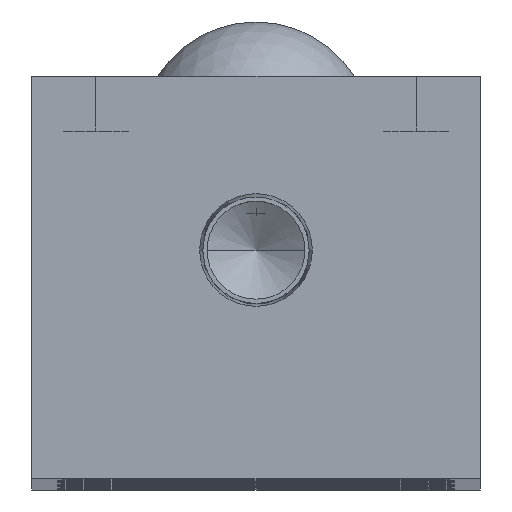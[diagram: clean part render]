
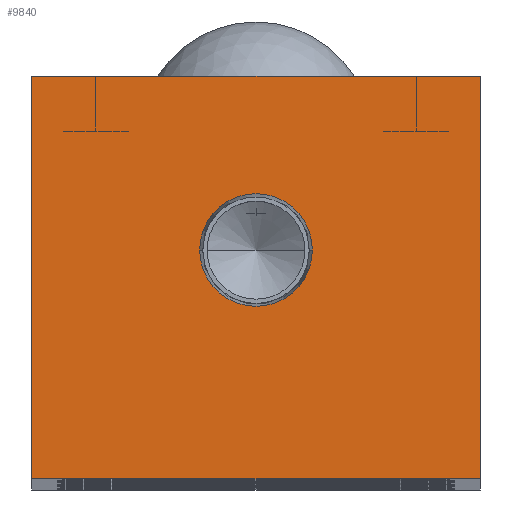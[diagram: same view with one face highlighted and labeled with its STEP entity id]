
A CAD part, top view. The second image highlights one B-rep face of the part: STEP entity #9840.
In plain terms, the highlighted planar face has unit normal (0, 0, 1).
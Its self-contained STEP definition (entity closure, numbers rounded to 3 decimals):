
#93 = CARTESIAN_POINT ( 'NONE',  ( 0., 25., 0. ) ) ;
#200 = PLANE ( 'NONE',  #7302 ) ;
#337 = DIRECTION ( 'NONE',  ( -1., 0., 0. ) ) ;
#901 = DIRECTION ( 'NONE',  ( 0., 0., 1. ) ) ;
#1005 = ORIENTED_EDGE ( 'NONE', *, *, #5595, .T. ) ;
#1011 = FACE_OUTER_BOUND ( 'NONE', #9961, .T. ) ;
#1024 = VECTOR ( 'NONE', #7397, 1000. ) ;
#1049 = AXIS2_PLACEMENT_3D ( 'NONE', #9281, #901, #10680 ) ;
#1490 = DIRECTION ( 'NONE',  ( 1., 0., 0. ) ) ;
#2073 = CIRCLE ( 'NONE', #1049, 6.154 ) ;
#2097 = AXIS2_PLACEMENT_3D ( 'NONE', #93, #9863, #1490 ) ;
#3031 = EDGE_CURVE ( 'NONE', #3648, #15835, #12448, .T. ) ;
#3606 = ORIENTED_EDGE ( 'NONE', *, *, #3031, .F. ) ;
#3640 = VECTOR ( 'NONE', #16965, 1000. ) ;
#3648 = VERTEX_POINT ( 'NONE', #16856 ) ;
#3661 = VECTOR ( 'NONE', #6852, 1000. ) ;
#4633 = ORIENTED_EDGE ( 'NONE', *, *, #14200, .T. ) ;
#5595 = EDGE_CURVE ( 'NONE', #17170, #12027, #11116, .T. ) ;
#6852 = DIRECTION ( 'NONE',  ( 1., 0., 0. ) ) ;
#7302 = AXIS2_PLACEMENT_3D ( 'NONE', #10041, #8709, #337 ) ;
#7397 = DIRECTION ( 'NONE',  ( -1., 0., 0. ) ) ;
#7806 = EDGE_CURVE ( 'NONE', #12126, #17170, #17136, .T. ) ;
#8009 = LINE ( 'NONE', #14372, #1024 ) ;
#8709 = DIRECTION ( 'NONE',  ( 0., 0., -1. ) ) ;
#9104 = CARTESIAN_POINT ( 'NONE',  ( 24.5, 44., 0. ) ) ;
#9281 = CARTESIAN_POINT ( 'NONE',  ( 0., 25., 0. ) ) ;
#9840 = ADVANCED_FACE ( 'NONE', ( #12156, #1011 ), #200, .F. ) ;
#9863 = DIRECTION ( 'NONE',  ( 0., 0., 1. ) ) ;
#9961 = EDGE_LOOP ( 'NONE', ( #12681, #1005, #15666, #4633 ) ) ;
#10041 = CARTESIAN_POINT ( 'NONE',  ( 0., 0., 0. ) ) ;
#10549 = CARTESIAN_POINT ( 'NONE',  ( -24.5, 44., 0. ) ) ;
#10680 = DIRECTION ( 'NONE',  ( 1., 0., 0. ) ) ;
#10710 = DIRECTION ( 'NONE',  ( 0., -1., 0. ) ) ;
#11090 = CARTESIAN_POINT ( 'NONE',  ( 24.5, 0., 0. ) ) ;
#11116 = LINE ( 'NONE', #11090, #3661 ) ;
#12027 = VERTEX_POINT ( 'NONE', #13141 ) ;
#12126 = VERTEX_POINT ( 'NONE', #10549 ) ;
#12156 = FACE_BOUND ( 'NONE', #13156, .T. ) ;
#12448 = CIRCLE ( 'NONE', #2097, 6.154 ) ;
#12681 = ORIENTED_EDGE ( 'NONE', *, *, #7806, .T. ) ;
#13141 = CARTESIAN_POINT ( 'NONE',  ( 24.5, 0., 0. ) ) ;
#13156 = EDGE_LOOP ( 'NONE', ( #14967, #3606 ) ) ;
#13422 = VECTOR ( 'NONE', #10710, 1000. ) ;
#13538 = EDGE_CURVE ( 'NONE', #12027, #15979, #18083, .T. ) ;
#14151 = CARTESIAN_POINT ( 'NONE',  ( 24.5, 44., 0. ) ) ;
#14200 = EDGE_CURVE ( 'NONE', #15979, #12126, #8009, .T. ) ;
#14372 = CARTESIAN_POINT ( 'NONE',  ( -24.5, 44., 0. ) ) ;
#14967 = ORIENTED_EDGE ( 'NONE', *, *, #15323, .F. ) ;
#15323 = EDGE_CURVE ( 'NONE', #15835, #3648, #2073, .T. ) ;
#15666 = ORIENTED_EDGE ( 'NONE', *, *, #13538, .T. ) ;
#15835 = VERTEX_POINT ( 'NONE', #17486 ) ;
#15979 = VERTEX_POINT ( 'NONE', #9104 ) ;
#16269 = CARTESIAN_POINT ( 'NONE',  ( -24.5, 0., 0. ) ) ;
#16856 = CARTESIAN_POINT ( 'NONE',  ( -6.154, 25., 0. ) ) ;
#16965 = DIRECTION ( 'NONE',  ( 0., 1., 0. ) ) ;
#17136 = LINE ( 'NONE', #16269, #13422 ) ;
#17170 = VERTEX_POINT ( 'NONE', #17597 ) ;
#17486 = CARTESIAN_POINT ( 'NONE',  ( 6.154, 25., 0. ) ) ;
#17597 = CARTESIAN_POINT ( 'NONE',  ( -24.5, 0., 0. ) ) ;
#18083 = LINE ( 'NONE', #14151, #3640 ) ;
